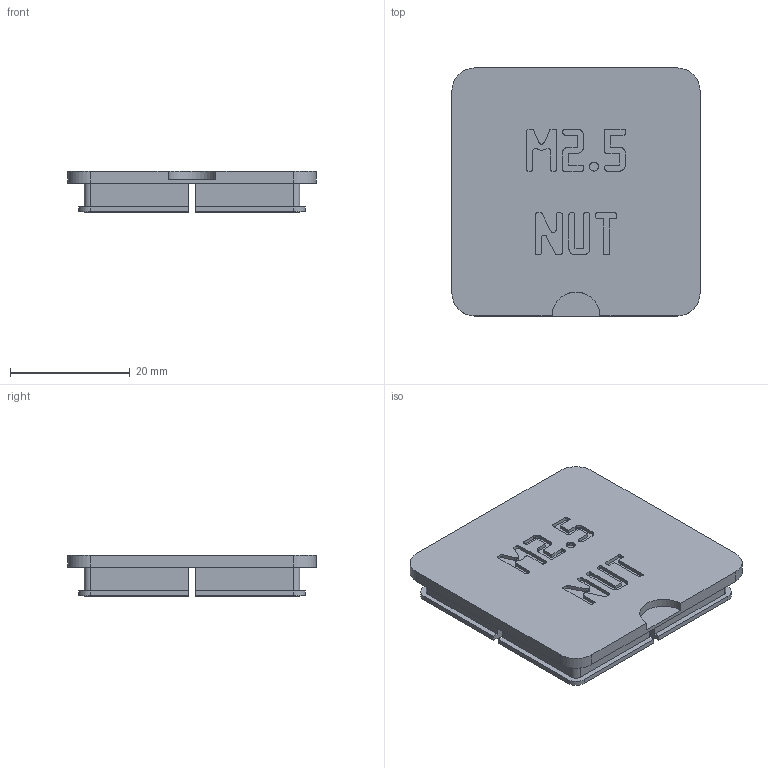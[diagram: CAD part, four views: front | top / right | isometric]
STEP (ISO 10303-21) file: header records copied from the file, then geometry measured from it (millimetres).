
FILE_DESCRIPTION(('Open CASCADE Model'),'2;1');
FILE_NAME('Open CASCADE Shape Model','2026-11-03T17:10:23',('Author'),( 'Open CASCADE'),'Open CASCADE STEP processor 8.0','build123d', 'Unknown');
FILE_SCHEMA(('AUTOMOTIVE_DESIGN { 1 0 10303 214 1 1 1 1 }'));
Length unit declared in the file: millimetre
Products named in the file (1): COMPOUND
Bounding box: 41.5 x 41.5 x 6.9 mm (x, y, z)
Volume: 4212 mm3; surface area: 5487.1 mm2
Topology: 1 solids, 1 shells, 701 faces, 2073 edges, 1382 vertices
Faces by surface type: plane 680, cylinder 21
Entity records: 49840 total; most frequent: CARTESIAN_POINT 8659, DIRECTION 7469, LINE 5971, VECTOR 5971, ORIENTED_EDGE 4146, PCURVE 4146, DEFINITIONAL_REPRESENTATION 4146, EDGE_CURVE 2073
